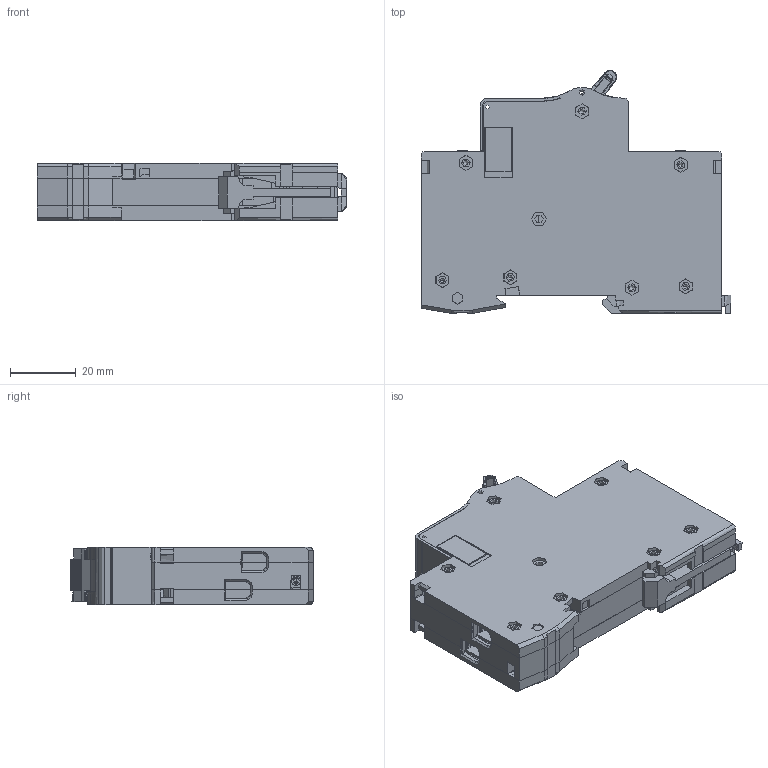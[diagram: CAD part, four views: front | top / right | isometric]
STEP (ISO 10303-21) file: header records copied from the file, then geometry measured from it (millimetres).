
FILE_DESCRIPTION (( 'STEP AP203' ), '1' );
FILE_NAME ('NDB2LE-32 2LD.292.1078.STEP', '2021-09-10T08:29:15', ( '' ), ( '' ), 'SwSTEP 2.0', 'SolidWorks 2018', '' );
FILE_SCHEMA (( 'CONFIG_CONTROL_DESIGN' ));
Length unit declared in the file: millimetre
Products named in the file (68): 8LD.239.1015; 8LD.321.101; 8LD.510.1078; 8LD.510.1187.3; 8LD.206.1027; 8LD.595.1290; 8LD.024.1382; 8LD.239.1016; 8LD.315.1395; 8LD.742.1006; 8LD.282.141; 8LD.421.1001; 8LD.315.141; NDB2LE-32 2LD.292.1078; 8LD.967.1005; 8LD.288.1021; 8LD.732.1044; 8LD.315.1394; 8LD.257.1027; 8LD.612.1122; 8LD.585.1250; 8LD.024.1385; 8LD.143.1002; 8LD.522.1091; 8LD.510.1187.2; 8LD.615.1112; 8LD.903.1045; 5LD.850.120; 8LD.510.1181.2; 8LD.516.1008; 8LD.550.1121; 8LD.510.1187.1; 8LD.550.1120; 8LD.288.143; 8LD.550.1123; 8LD.885.1043; 8LD.948.100; 8LD.253.1184; 8LD.585.1004; 8LD.592.1005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
Assembly tree (94 placements, depth 3):
  NDB2LE-32 2LD.292.1078
    8LD.024.1385
    8LD.612.1122
    8LD.615.1112
    8LD.732.1044
    8LD.615.1113
    8LD.235.1154
    8LD.282.100_蚾饜蚚
    8LD.522.1099
    8LD.522.1091
    8LD.585.1255
    8LD.288.143
    8LD.253.1184
    8LD.039.1007
    8LD.239.1015
    8LD.239.1016
    8LD.206.1026  x2
    8LD.257.1027
    8LD.885.1043
    8LD.550.1120
    8LD.550.1121
    8LD.270.115
    8LD.282.141
    8LD.233.125
    8LD.206.1027
    8LD.288.1021
    8LD.234.1093
    8LD.585.1004
    8LD.516.1008  x4
    8LD.903.1045  x4
    8LD.505.1005
    8LD.595.0001
    8LD.551.137  x2
    8LD.550.1123
    8LD.315.1395
    8LD.585.1002
    8LD.585.1251
    8LD.315.1394
    8LD.585.1250
    8LD.315.1392
    8LD.253.1354
    8LD.315.141  x2
    8LD.505.1007
    8LD.595.1290
    8LD.421.1001
    8LD.510.1078  x2
    8LD.288.1055
    5LD.740.1001
      8LD.742.1006  x10
      8LD.742.1007  x3
    6LD.374.1391
    8LD.024.1382
    8LD.156.1002
    8LD.510.1190
    8LD.510.1182
    8LD.510.1181.1
    8LD.510.1181.2
    8LD.510.1187.1
    8LD.510.1187.2
    8LD.510.1187.3
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Bounding box: 94.38 x 74.07 x 17.5 mm (x, y, z)
Topology: 95 solids, 98 shells, 8274 faces, 22325 edges, 14255 vertices
Faces by surface type: plane 5113, cylinder 2122, cone 489, bspline 251, torus 151, sphere 148
Entity records: 250647 total; most frequent: CARTESIAN_POINT 73601, ORIENTED_EDGE 37000, DIRECTION 32884, EDGE_CURVE 18500, LINE 12736, VECTOR 12736, VERTEX_POINT 12012, AXIS2_PLACEMENT_3D 10074
